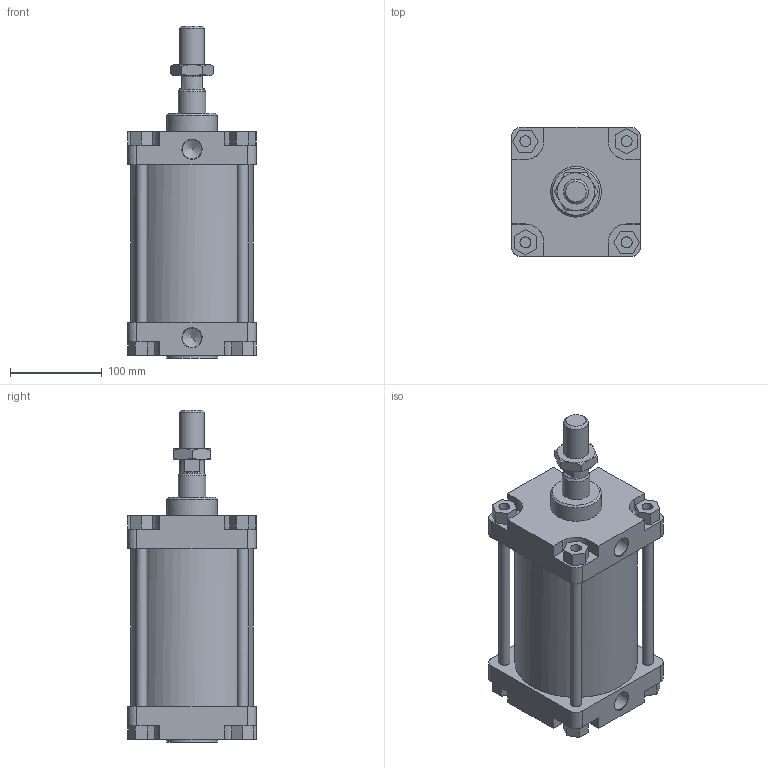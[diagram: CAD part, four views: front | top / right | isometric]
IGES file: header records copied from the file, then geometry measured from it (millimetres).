
Global section: file name: 1305_125_0075_01A; native system: Autodesk Inventor 2014; preprocessor: unknown; author: A. Manieri; date: 20161124.143207; units: millimetre
Bounding box: 140 x 140 x 361 mm (x, y, z)
Volume: 2996694.5 mm3; surface area: 401025.7 mm2
Topology: 9 solids, 9 shells, 175 faces, 440 edges, 295 vertices
Faces by surface type: bspline 175
